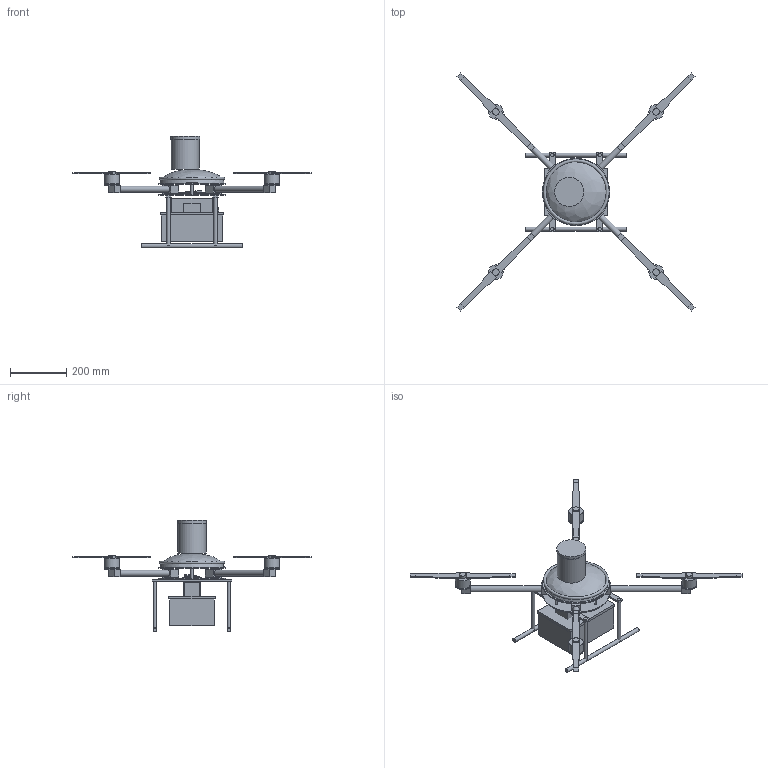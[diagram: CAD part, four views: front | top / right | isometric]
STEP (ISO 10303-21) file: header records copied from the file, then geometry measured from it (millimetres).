
FILE_DESCRIPTION(('FreeCAD Model'),'2;1');
FILE_NAME('Open CASCADE Shape Model','2026-10-22T00:32:17',('Author'),( ''),'Open CASCADE STEP processor 7.8','FreeCAD','Unknown');
FILE_SCHEMA(('AUTOMOTIVE_DESIGN { 1 0 10303 214 1 1 1 1 }'));
Length unit declared in the file: millimetre
Products named in the file (134): Lab Quadcopter 1.0.0; Frame (designed in this System); Lower plate; Upper plate; Standoff; Standoff 2; Standoff 3; Standoff 4; Canopy; Bumper ring; Skid; Leg; Leg 2; Skid 2; Leg 3; Leg 4; Cross bar; Cross bar 2; Sample box; Sample box lid; Safety labels (3); Propeller warning; Battery warning; Medical cargo; Propulsion; Arm 1.1.0 (1); Root clamp; Tube; Motor mount; Motor 1.0.0 (arm 1); Flange; Neck; Stator; Small propeller 1.1.0 (arm 1); Hub; Blade; Blade tip; Blade 2; Blade tip 2; Fasteners 1.0.0 (arm 1)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
Assembly tree (133 placements, depth 5):
  Lab Quadcopter 1.0.0
    Frame (designed in this System)
      Lower plate
      Upper plate
      Standoff
      Standoff 2
      Standoff 3
      Standoff 4
      Canopy
      Bumper ring
      Skid
      Leg
      Leg 2
      Skid 2
      Leg 3
      Leg 4
      Cross bar
      Cross bar 2
      Sample box
      Sample box lid
      Safety labels (3)
        Propeller warning
        Battery warning
        Medical cargo
    Propulsion
      Arm 1.1.0 (1)
        Root clamp
        Tube
        Motor mount
        Motor 1.0.0 (arm 1)
          Flange
          Neck
          Stator
        Small propeller 1.1.0 (arm 1)
          Hub
          Blade
          Blade tip
          Blade 2
          Blade tip 2
        Fasteners 1.0.0 (arm 1)
          Screw head M3
          Screw head M3 2
          Screw head M3 3
          Screw head M3 4
      Arm 1.1.0 (2)
        Root clamp 2
        Tube 2
        Motor mount 2
        Motor 1.0.0 (arm 2)
          Flange 2
          Neck 2
          Stator 2
        Small propeller 1.1.0 (arm 2)
          Hub 2
          Blade 3
          Blade tip 3
          Blade 4
          Blade tip 4
        Fasteners 1.0.0 (arm 2)
          Screw head M3 5
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Bounding box: 849.94 x 849.94 x 398 mm (x, y, z)
Volume: 8139265.5 mm3; surface area: 1160046.4 mm2
Topology: 107 solids, 108 shells, 441 faces, 683 edges, 455 vertices
Faces by surface type: plane 372, cylinder 66, bspline 2, torus 1
Full cylindrical faces by diameter (mm): 4 x16, 5 x4, 8 x4, 12 x4, 14 x2, 21 x12, 22 x4, 24 x8, 52 x8, 100 x1, 104 x1, 240 x2
Entity records: 11990 total; most frequent: DIRECTION 1960, CARTESIAN_POINT 1743, ORIENTED_EDGE 1364, AXIS2_PLACEMENT_3D 707, EDGE_CURVE 682, LINE 546, VECTOR 546, VERTEX_POINT 455
